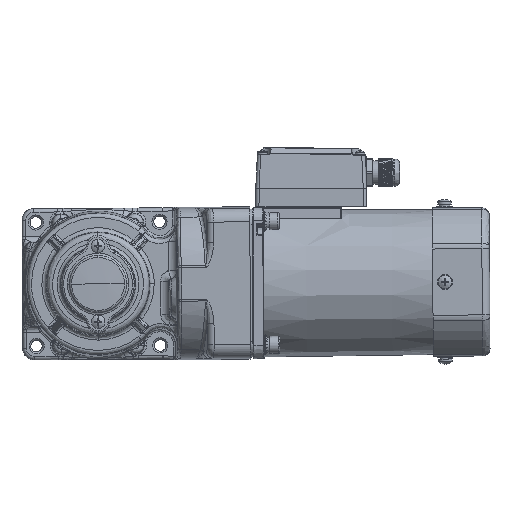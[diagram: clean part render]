
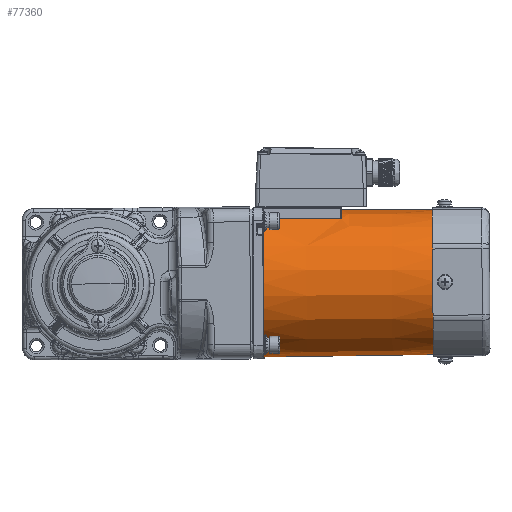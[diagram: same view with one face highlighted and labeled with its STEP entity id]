
A CAD part, left-side view. The second image highlights one B-rep face of the part: STEP entity #77360.
In plain terms, the highlighted conical face has half-angle 0.5 degrees and reference radius 44 mm.
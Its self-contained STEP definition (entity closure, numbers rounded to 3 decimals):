
#76 = CARTESIAN_POINT ( 'NONE',  ( 36.917, 7.483, 178.78 ) ) ;
#2142 = ORIENTED_EDGE ( 'NONE', *, *, #63669, .T. ) ;
#2203 = AXIS2_PLACEMENT_3D ( 'NONE', #101708, #46999, #83295 ) ;
#6039 = DIRECTION ( 'NONE',  ( -1., 0., 0. ) ) ;
#7133 = EDGE_CURVE ( 'NONE', #70445, #19524, #29569, .T. ) ;
#10760 = CARTESIAN_POINT ( 'NONE',  ( 36.951, 7.422, 178.893 ) ) ;
#12384 = VERTEX_POINT ( 'NONE', #70607 ) ;
#13548 = CIRCLE ( 'NONE', #2203, 44. ) ;
#13924 = B_SPLINE_CURVE_WITH_KNOTS ( 'NONE', 3,
 ( #63727, #82155, #76, #92269, #109555, #117321, #10760, #82752, #72648, #19657, #108381, #28000, #26826, #63131, #27404, #46442 ),
 .UNSPECIFIED., .F., .F.,
 ( 4, 2, 2, 1, 1, 2, 2, 2, 4 ),
 ( 0., 0.25, 0.375, 0.437, 0.469, 0.484, 0.5, 0.75, 1. ),
 .UNSPECIFIED. ) ;
#14282 = CIRCLE ( 'NONE', #80877, 43.594 ) ;
#16157 = ORIENTED_EDGE ( 'NONE', *, *, #95149, .T. ) ;
#16790 = DIRECTION ( 'NONE',  ( -1., 0., 0. ) ) ;
#18083 = B_SPLINE_CURVE_WITH_KNOTS ( 'NONE', 3,
 ( #40991, #104651, #51119, #76136 ),
 .UNSPECIFIED., .F., .F.,
 ( 4, 4 ),
 ( 0., 0.046 ),
 .UNSPECIFIED. ) ;
#19524 = VERTEX_POINT ( 'NONE', #87931 ) ;
#19657 = CARTESIAN_POINT ( 'NONE',  ( 36.963, 7.399, 178.916 ) ) ;
#23934 = CARTESIAN_POINT ( 'NONE',  ( -44.958, -14.105, 132.5 ) ) ;
#25431 = DIRECTION ( 'NONE',  ( 0., 0., 1. ) ) ;
#25739 = VECTOR ( 'NONE', #83456, 1000. ) ;
#26826 = CARTESIAN_POINT ( 'NONE',  ( 36.991, 7.352, 178.956 ) ) ;
#26924 = CARTESIAN_POINT ( 'NONE',  ( -44.958, -14.105, 132.5 ) ) ;
#27404 = CARTESIAN_POINT ( 'NONE',  ( 37.052, 7.241, 179. ) ) ;
#27731 = CARTESIAN_POINT ( 'NONE',  ( 43.042, -14.105, 132.5 ) ) ;
#28000 = CARTESIAN_POINT ( 'NONE',  ( 36.976, 7.377, 178.937 ) ) ;
#29569 = CIRCLE ( 'NONE', #88510, 43.11 ) ;
#32169 = CONICAL_SURFACE ( 'NONE', #93019, 44., 0.009 ) ;
#33725 = VERTEX_POINT ( 'NONE', #55086 ) ;
#35563 = DIRECTION ( 'NONE',  ( -1., 0., 0. ) ) ;
#36502 = EDGE_CURVE ( 'NONE', #106893, #91262, #13924, .T. ) ;
#40991 = CARTESIAN_POINT ( 'NONE',  ( 36.913, 7.492, 178.703 ) ) ;
#45065 = ORIENTED_EDGE ( 'NONE', *, *, #109981, .F. ) ;
#45242 = CARTESIAN_POINT ( 'NONE',  ( 37.08, 7.192, 179. ) ) ;
#46442 = CARTESIAN_POINT ( 'NONE',  ( 37.08, 7.192, 179. ) ) ;
#46999 = DIRECTION ( 'NONE',  ( 0., 0., 1. ) ) ;
#47541 = EDGE_CURVE ( 'NONE', #12384, #91262, #14282, .T. ) ;
#51119 = CARTESIAN_POINT ( 'NONE',  ( 37.069, 7.76, 147.901 ) ) ;
#52070 = EDGE_CURVE ( 'NONE', #19524, #12384, #53936, .T. ) ;
#53936 = LINE ( 'NONE', #27731, #68232 ) ;
#55086 = CARTESIAN_POINT ( 'NONE',  ( 37.147, 7.895, 132.5 ) ) ;
#60072 = CARTESIAN_POINT ( 'NONE',  ( -44.068, -14.105, 234.5 ) ) ;
#60267 = FACE_OUTER_BOUND ( 'NONE', #81574, .T. ) ;
#63131 = CARTESIAN_POINT ( 'NONE',  ( 37.029, 7.284, 178.988 ) ) ;
#63669 = EDGE_CURVE ( 'NONE', #106893, #33725, #18083, .T. ) ;
#63726 = ORIENTED_EDGE ( 'NONE', *, *, #47541, .T. ) ;
#63727 = CARTESIAN_POINT ( 'NONE',  ( 36.913, 7.492, 178.703 ) ) ;
#66186 = ORIENTED_EDGE ( 'NONE', *, *, #36502, .F. ) ;
#68232 = VECTOR ( 'NONE', #108696, 1000. ) ;
#70445 = VERTEX_POINT ( 'NONE', #60072 ) ;
#70607 = CARTESIAN_POINT ( 'NONE',  ( 42.636, -14.105, 179. ) ) ;
#72648 = CARTESIAN_POINT ( 'NONE',  ( 36.961, 7.403, 178.913 ) ) ;
#73504 = VERTEX_POINT ( 'NONE', #23934 ) ;
#76136 = CARTESIAN_POINT ( 'NONE',  ( 37.147, 7.895, 132.5 ) ) ;
#77360 = ADVANCED_FACE ( 'NONE', ( #60267 ), #32169, .T. ) ;
#77533 = CARTESIAN_POINT ( 'NONE',  ( -0.958, -14.105, 132.5 ) ) ;
#78025 = DIRECTION ( 'NONE',  ( 0., 0., -1. ) ) ;
#80877 = AXIS2_PLACEMENT_3D ( 'NONE', #106965, #25431, #35563 ) ;
#81574 = EDGE_LOOP ( 'NONE', ( #84725, #95168, #63726, #66186, #2142, #16157, #45065 ) ) ;
#82155 = CARTESIAN_POINT ( 'NONE',  ( 36.913, 7.491, 178.741 ) ) ;
#82752 = CARTESIAN_POINT ( 'NONE',  ( 36.958, 7.409, 178.907 ) ) ;
#83295 = DIRECTION ( 'NONE',  ( -1., 0., 0. ) ) ;
#83456 = DIRECTION ( 'NONE',  ( -0.009, 0., -1. ) ) ;
#84725 = ORIENTED_EDGE ( 'NONE', *, *, #7133, .T. ) ;
#87931 = CARTESIAN_POINT ( 'NONE',  ( 42.151, -14.105, 234.5 ) ) ;
#88510 = AXIS2_PLACEMENT_3D ( 'NONE', #116686, #78025, #6039 ) ;
#91262 = VERTEX_POINT ( 'NONE', #45242 ) ;
#92269 = CARTESIAN_POINT ( 'NONE',  ( 36.93, 7.459, 178.837 ) ) ;
#93019 = AXIS2_PLACEMENT_3D ( 'NONE', #77533, #106659, #16790 ) ;
#95149 = EDGE_CURVE ( 'NONE', #33725, #73504, #13548, .T. ) ;
#95168 = ORIENTED_EDGE ( 'NONE', *, *, #52070, .T. ) ;
#101708 = CARTESIAN_POINT ( 'NONE',  ( -0.958, -14.105, 132.5 ) ) ;
#103200 = CARTESIAN_POINT ( 'NONE',  ( 36.913, 7.492, 178.703 ) ) ;
#104651 = CARTESIAN_POINT ( 'NONE',  ( 36.991, 7.626, 163.302 ) ) ;
#106659 = DIRECTION ( 'NONE',  ( 0., 0., -1. ) ) ;
#106893 = VERTEX_POINT ( 'NONE', #103200 ) ;
#106965 = CARTESIAN_POINT ( 'NONE',  ( -0.958, -14.105, 179. ) ) ;
#108381 = CARTESIAN_POINT ( 'NONE',  ( 36.965, 7.397, 178.919 ) ) ;
#108696 = DIRECTION ( 'NONE',  ( 0.009, 0., -1. ) ) ;
#109555 = CARTESIAN_POINT ( 'NONE',  ( 36.936, 7.449, 178.855 ) ) ;
#109661 = LINE ( 'NONE', #26924, #25739 ) ;
#109981 = EDGE_CURVE ( 'NONE', #70445, #73504, #109661, .T. ) ;
#116686 = CARTESIAN_POINT ( 'NONE',  ( -0.958, -14.105, 234.5 ) ) ;
#117321 = CARTESIAN_POINT ( 'NONE',  ( 36.946, 7.431, 178.881 ) ) ;
